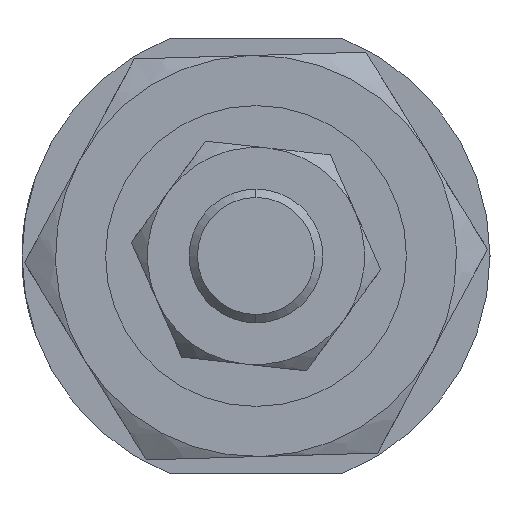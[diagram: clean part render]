
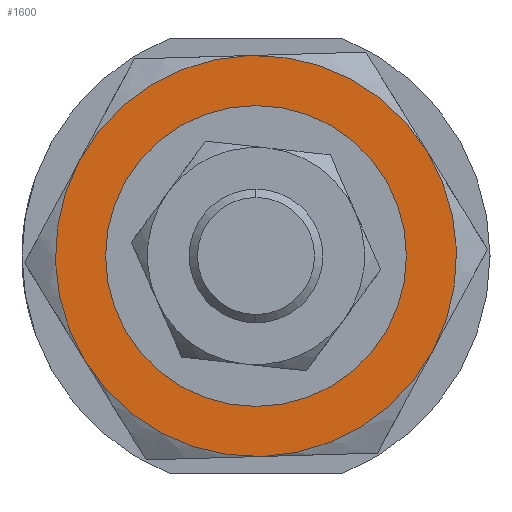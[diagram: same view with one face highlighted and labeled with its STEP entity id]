
A CAD part, left-side view. The second image highlights one B-rep face of the part: STEP entity #1600.
In plain terms, the highlighted planar face has unit normal (-1, 0, 0) as drawn and (0, 0, -1) by its records, which use the part's own axes.
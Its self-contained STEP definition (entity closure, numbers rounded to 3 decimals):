
#45 = EDGE_CURVE ( 'NONE', #2346, #81, #153, .T. ) ;
#81 = VERTEX_POINT ( 'NONE', #193 ) ;
#128 = ORIENTED_EDGE ( 'NONE', *, *, #227, .F. ) ;
#135 = ORIENTED_EDGE ( 'NONE', *, *, #1572, .F. ) ;
#153 = CIRCLE ( 'NONE', #1098, 8.25 ) ;
#193 = CARTESIAN_POINT ( 'NONE',  ( -8.25, 0., -4. ) ) ;
#221 = CARTESIAN_POINT ( 'NONE',  ( -12., 0., -4. ) ) ;
#222 = DIRECTION ( 'NONE',  ( 0., 0., 1. ) ) ;
#227 = EDGE_CURVE ( 'NONE', #2236, #2101, #1541, .T. ) ;
#330 = ORIENTED_EDGE ( 'NONE', *, *, #522, .F. ) ;
#341 = EDGE_LOOP ( 'NONE', ( #3318, #3324 ) ) ;
#361 = CARTESIAN_POINT ( 'NONE',  ( -6., -10.392, -4. ) ) ;
#369 = CARTESIAN_POINT ( 'NONE',  ( 0., 0., -4. ) ) ;
#385 = CIRCLE ( 'NONE', #662, 12. ) ;
#522 = EDGE_CURVE ( 'NONE', #2965, #1357, #3525, .T. ) ;
#544 = CIRCLE ( 'NONE', #3522, 12. ) ;
#558 = CIRCLE ( 'NONE', #1505, 12. ) ;
#583 = AXIS2_PLACEMENT_3D ( 'NONE', #639, #3392, #806 ) ;
#614 = DIRECTION ( 'NONE',  ( 0., 0., 1. ) ) ;
#639 = CARTESIAN_POINT ( 'NONE',  ( 0., 0., -4. ) ) ;
#662 = AXIS2_PLACEMENT_3D ( 'NONE', #3470, #1852, #1915 ) ;
#724 = AXIS2_PLACEMENT_3D ( 'NONE', #3168, #2742, #2134 ) ;
#729 = CARTESIAN_POINT ( 'NONE',  ( 6., 10.392, -4. ) ) ;
#793 = EDGE_LOOP ( 'NONE', ( #330, #3442, #135, #128, #2712, #1225 ) ) ;
#806 = DIRECTION ( 'NONE',  ( 1., 0., 0. ) ) ;
#861 = VERTEX_POINT ( 'NONE', #1206 ) ;
#1012 = FACE_OUTER_BOUND ( 'NONE', #793, .T. ) ;
#1040 = VERTEX_POINT ( 'NONE', #1603 ) ;
#1098 = AXIS2_PLACEMENT_3D ( 'NONE', #2226, #614, #1862 ) ;
#1104 = AXIS2_PLACEMENT_3D ( 'NONE', #369, #2980, #2628 ) ;
#1109 = AXIS2_PLACEMENT_3D ( 'NONE', #2156, #2638, #2491 ) ;
#1206 = CARTESIAN_POINT ( 'NONE',  ( -6., 10.392, -4. ) ) ;
#1225 = ORIENTED_EDGE ( 'NONE', *, *, #2265, .F. ) ;
#1289 = CIRCLE ( 'NONE', #724, 12. ) ;
#1357 = VERTEX_POINT ( 'NONE', #729 ) ;
#1360 = CARTESIAN_POINT ( 'NONE',  ( 12., 0., -4. ) ) ;
#1402 = CIRCLE ( 'NONE', #1104, 8.25 ) ;
#1497 = DIRECTION ( 'NONE',  ( 1., 0., 0. ) ) ;
#1505 = AXIS2_PLACEMENT_3D ( 'NONE', #2130, #222, #1497 ) ;
#1528 = DIRECTION ( 'NONE',  ( 0., 0., 1. ) ) ;
#1541 = CIRCLE ( 'NONE', #2279, 12. ) ;
#1572 = EDGE_CURVE ( 'NONE', #2101, #1040, #544, .T. ) ;
#1600 = ADVANCED_FACE ( 'NONE', ( #1632, #1012 ), #2818, .F. ) ;
#1603 = CARTESIAN_POINT ( 'NONE',  ( 6., -10.392, -4. ) ) ;
#1632 = FACE_BOUND ( 'NONE', #341, .T. ) ;
#1665 = DIRECTION ( 'NONE',  ( 1., 0., 0. ) ) ;
#1852 = DIRECTION ( 'NONE',  ( 0., 0., 1. ) ) ;
#1862 = DIRECTION ( 'NONE',  ( 1., 0., 0. ) ) ;
#1915 = DIRECTION ( 'NONE',  ( 1., 0., 0. ) ) ;
#2063 = DIRECTION ( 'NONE',  ( 0., 0., 1. ) ) ;
#2101 = VERTEX_POINT ( 'NONE', #361 ) ;
#2130 = CARTESIAN_POINT ( 'NONE',  ( 0., 0., -4. ) ) ;
#2134 = DIRECTION ( 'NONE',  ( 1., 0., 0. ) ) ;
#2156 = CARTESIAN_POINT ( 'NONE',  ( 0., 0., -4. ) ) ;
#2226 = CARTESIAN_POINT ( 'NONE',  ( 0., 0., -4. ) ) ;
#2236 = VERTEX_POINT ( 'NONE', #221 ) ;
#2245 = CARTESIAN_POINT ( 'NONE',  ( 0., 0., -4. ) ) ;
#2265 = EDGE_CURVE ( 'NONE', #1357, #861, #558, .T. ) ;
#2278 = EDGE_CURVE ( 'NONE', #81, #2346, #1402, .T. ) ;
#2279 = AXIS2_PLACEMENT_3D ( 'NONE', #2245, #2063, #1665 ) ;
#2310 = EDGE_CURVE ( 'NONE', #861, #2236, #1289, .T. ) ;
#2346 = VERTEX_POINT ( 'NONE', #3286 ) ;
#2491 = DIRECTION ( 'NONE',  ( 1., 0., 0. ) ) ;
#2628 = DIRECTION ( 'NONE',  ( 1., 0., 0. ) ) ;
#2638 = DIRECTION ( 'NONE',  ( 0., 0., 1. ) ) ;
#2712 = ORIENTED_EDGE ( 'NONE', *, *, #2310, .F. ) ;
#2742 = DIRECTION ( 'NONE',  ( 0., 0., 1. ) ) ;
#2818 = PLANE ( 'NONE',  #1109 ) ;
#2965 = VERTEX_POINT ( 'NONE', #1360 ) ;
#2980 = DIRECTION ( 'NONE',  ( 0., 0., 1. ) ) ;
#3138 = CARTESIAN_POINT ( 'NONE',  ( 0., 0., -4. ) ) ;
#3145 = EDGE_CURVE ( 'NONE', #1040, #2965, #385, .T. ) ;
#3168 = CARTESIAN_POINT ( 'NONE',  ( 0., 0., -4. ) ) ;
#3286 = CARTESIAN_POINT ( 'NONE',  ( 8.25, 0., -4. ) ) ;
#3318 = ORIENTED_EDGE ( 'NONE', *, *, #45, .T. ) ;
#3324 = ORIENTED_EDGE ( 'NONE', *, *, #2278, .T. ) ;
#3392 = DIRECTION ( 'NONE',  ( 0., 0., 1. ) ) ;
#3442 = ORIENTED_EDGE ( 'NONE', *, *, #3145, .F. ) ;
#3470 = CARTESIAN_POINT ( 'NONE',  ( 0., 0., -4. ) ) ;
#3522 = AXIS2_PLACEMENT_3D ( 'NONE', #3138, #1528, #3549 ) ;
#3525 = CIRCLE ( 'NONE', #583, 12. ) ;
#3549 = DIRECTION ( 'NONE',  ( 1., 0., 0. ) ) ;
